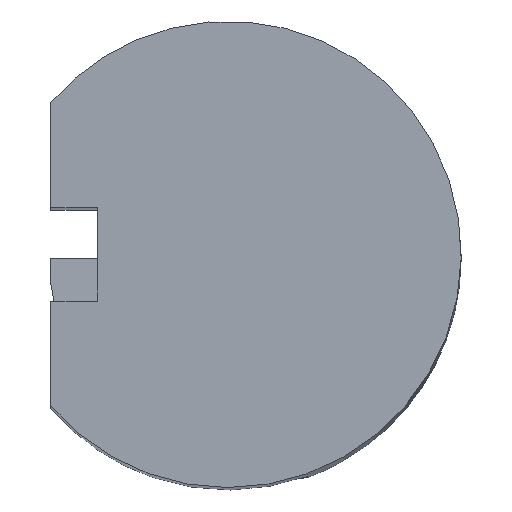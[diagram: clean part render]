
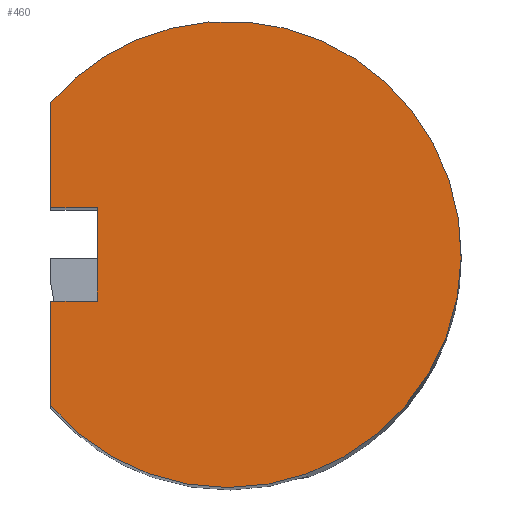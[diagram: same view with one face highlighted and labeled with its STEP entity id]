
A CAD part, top view. The second image highlights one B-rep face of the part: STEP entity #460.
In plain terms, the highlighted planar face has unit normal (0, 0, 1).
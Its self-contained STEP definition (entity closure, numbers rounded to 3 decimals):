
#211=AXIS2_PLACEMENT_3D('Circle Axis2P3D',#209,#210,$) ;
#429=AXIS2_PLACEMENT_3D('Plane Axis2P3D',#426,#427,#428) ;
#440=AXIS2_PLACEMENT_3D('Circle Axis2P3D',#438,#439,$) ;
#447=AXIS2_PLACEMENT_3D('Circle Axis2P3D',#445,#446,$) ;
#41=CARTESIAN_POINT('Vertex',(-1.4,-0.5,0.)) ;
#46=CARTESIAN_POINT('Line Origine',(-1.4,0.,0.)) ;
#50=CARTESIAN_POINT('Vertex',(-1.4,0.5,0.)) ;
#141=CARTESIAN_POINT('Vertex',(-1.9,-1.625,0.)) ;
#206=CARTESIAN_POINT('Vertex',(2.194,1.199,0.)) ;
#209=CARTESIAN_POINT('Axis2P3D Location',(0.,0.,0.)) ;
#336=CARTESIAN_POINT('Line Origine',(-1.9,-1.062,0.)) ;
#340=CARTESIAN_POINT('Vertex',(-1.9,-0.5,0.)) ;
#383=CARTESIAN_POINT('Line Origine',(-1.65,-0.5,0.)) ;
#400=CARTESIAN_POINT('Line Origine',(-1.65,0.5,0.)) ;
#404=CARTESIAN_POINT('Vertex',(-1.9,0.5,0.)) ;
#426=CARTESIAN_POINT('Axis2P3D Location',(2.5,0.,0.)) ;
#431=CARTESIAN_POINT('Line Origine',(-1.9,1.062,0.)) ;
#435=CARTESIAN_POINT('Vertex',(-1.9,1.625,0.)) ;
#438=CARTESIAN_POINT('Axis2P3D Location',(0.,0.,0.)) ;
#442=CARTESIAN_POINT('Vertex',(-1.,2.291,0.)) ;
#445=CARTESIAN_POINT('Axis2P3D Location',(0.,0.,0.)) ;
#47=DIRECTION('Vector Direction',(0.,1.,0.)) ;
#210=DIRECTION('Axis2P3D Direction',(0.,-0.,1.)) ;
#337=DIRECTION('Vector Direction',(0.,-1.,0.)) ;
#384=DIRECTION('Vector Direction',(-1.,0.,0.)) ;
#401=DIRECTION('Vector Direction',(1.,0.,0.)) ;
#427=DIRECTION('Axis2P3D Direction',(0.,-0.,1.)) ;
#428=DIRECTION('Axis2P3D XDirection',(0.,1.,0.)) ;
#432=DIRECTION('Vector Direction',(0.,-1.,0.)) ;
#439=DIRECTION('Axis2P3D Direction',(0.,-0.,1.)) ;
#446=DIRECTION('Axis2P3D Direction',(0.,-0.,1.)) ;
#48=VECTOR('Line Direction',#47,1.) ;
#338=VECTOR('Line Direction',#337,1.) ;
#385=VECTOR('Line Direction',#384,1.) ;
#402=VECTOR('Line Direction',#401,1.) ;
#433=VECTOR('Line Direction',#432,1.) ;
#451=ORIENTED_EDGE('',*,*,#437,.T.) ;
#452=ORIENTED_EDGE('',*,*,#406,.F.) ;
#453=ORIENTED_EDGE('',*,*,#52,.F.) ;
#454=ORIENTED_EDGE('',*,*,#387,.F.) ;
#455=ORIENTED_EDGE('',*,*,#342,.T.) ;
#456=ORIENTED_EDGE('',*,*,#213,.F.) ;
#457=ORIENTED_EDGE('',*,*,#444,.T.) ;
#458=ORIENTED_EDGE('',*,*,#449,.F.) ;
#460=ADVANCED_FACE('NO_CUT',(#459),#430,.T.) ;
#212=CIRCLE('generated circle',#211,2.5) ;
#441=CIRCLE('generated circle',#440,2.5) ;
#448=CIRCLE('generated circle',#447,2.5) ;
#52=EDGE_CURVE('',#42,#51,#49,.T.) ;
#213=EDGE_CURVE('',#207,#142,#212,.F.) ;
#342=EDGE_CURVE('',#341,#142,#339,.T.) ;
#387=EDGE_CURVE('',#341,#42,#386,.F.) ;
#406=EDGE_CURVE('',#51,#405,#403,.F.) ;
#437=EDGE_CURVE('',#436,#405,#434,.T.) ;
#444=EDGE_CURVE('',#207,#443,#441,.T.) ;
#449=EDGE_CURVE('',#436,#443,#448,.F.) ;
#450=EDGE_LOOP('',(#451,#452,#453,#454,#455,#456,#457,#458)) ;
#459=FACE_OUTER_BOUND('',#450,.T.) ;
#49=LINE('Line',#46,#48) ;
#339=LINE('Line',#336,#338) ;
#386=LINE('Line',#383,#385) ;
#403=LINE('Line',#400,#402) ;
#434=LINE('Line',#431,#433) ;
#430=PLANE('Plane',#429) ;
#42=VERTEX_POINT('',#41) ;
#51=VERTEX_POINT('',#50) ;
#142=VERTEX_POINT('',#141) ;
#207=VERTEX_POINT('',#206) ;
#341=VERTEX_POINT('',#340) ;
#405=VERTEX_POINT('',#404) ;
#436=VERTEX_POINT('',#435) ;
#443=VERTEX_POINT('',#442) ;
